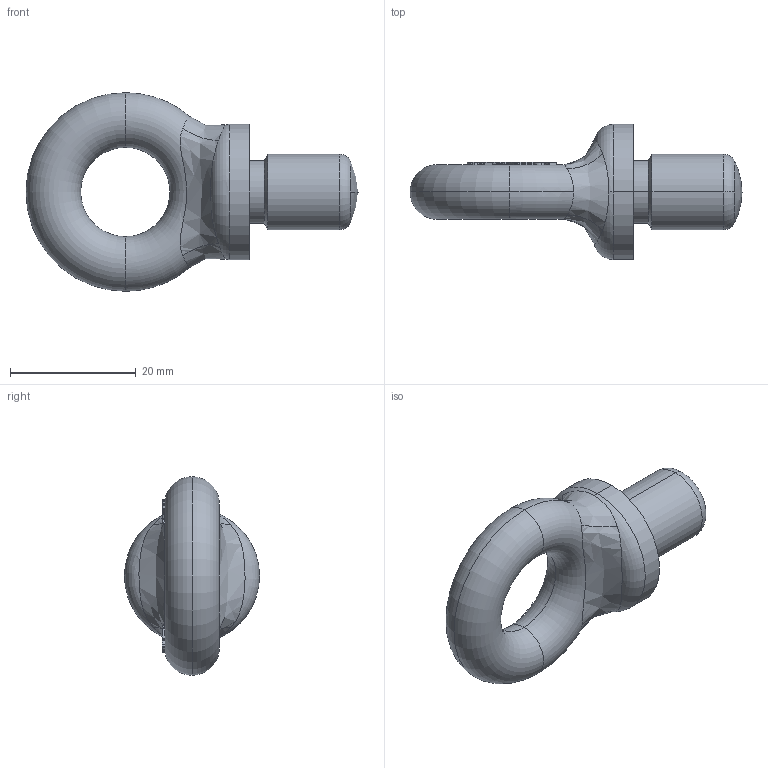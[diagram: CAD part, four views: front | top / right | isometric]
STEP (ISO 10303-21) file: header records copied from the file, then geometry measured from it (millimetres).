
FILE_DESCRIPTION (( 'STEP AP203' ), '1' );
FILE_NAME ('EBB375.STEP', '2010-01-11T00:32:20', ( ' ' ), ( ' ' ), 'SwSTEP 2.0', 'SolidWorks 2003240', '' );
FILE_SCHEMA (( 'CONFIG_CONTROL_DESIGN' ));
Length unit declared in the file: millimetre
Products named in the file (1): EBB375
Bounding box: 52.82 x 21.5 x 31.6 mm (x, y, z)
Volume: 8366.1 mm3; surface area: 4055.4 mm2
Topology: 17 solids, 17 shells, 234 faces, 592 edges, 391 vertices
Faces by surface type: plane 147, bspline 52, torus 25, cylinder 6, cone 2, sphere 2
Entity records: 15718 total; most frequent: CARTESIAN_POINT 10599, ORIENTED_EDGE 1184, DIRECTION 754, EDGE_CURVE 592, VERTEX_POINT 391, VECTOR 316, LINE 316, EDGE_LOOP 245
